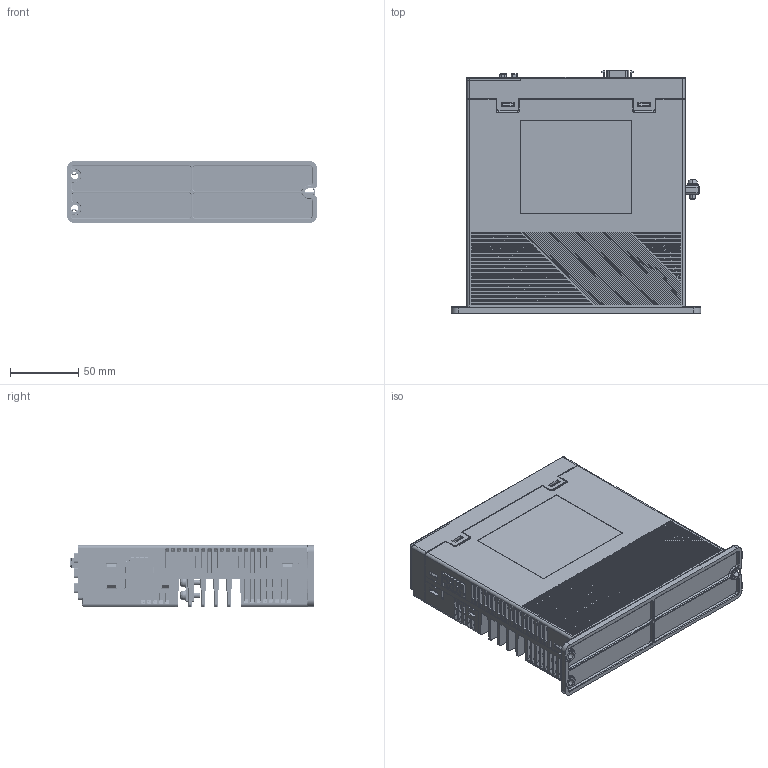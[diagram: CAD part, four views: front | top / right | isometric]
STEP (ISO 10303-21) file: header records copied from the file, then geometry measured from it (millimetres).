
FILE_DESCRIPTION((''),'2;1');
FILE_NAME('BD3E-A-0731_SW0002','2025-02-19T14:14:21',('qiaolun'),(''),'CREO PARAMETRIC BY PTC INC, 2021063','CREO PARAMETRIC BY PTC INC, 2021063','');
FILE_SCHEMA(('CONFIG_CONTROL_DESIGN'));
Products named in the file (1): BD3E-A-0731_SW0002
Bounding box: 183 x 178.2 x 45 mm (x, y, z)
Surface area: 227731.2 mm2 (no closed solid volume)
Topology: 0 solids, 0 shells, 8810 faces, 51856 edges, 51795 vertices
Faces by surface type: plane 6564, cylinder 1702, cone 235, extrusion 127, bspline 115, torus 49, sphere 18
Entity records: 689249 total; most frequent: CARTESIAN_POINT 191967, DIRECTION 90084, TRIMMED_CURVE 69237, VECTOR 65780, LINE 65653, DEFINITIONAL_REPRESENTATION 51754, PCURVE 51754, COMPOSITE_CURVE_SEGMENT 51754
